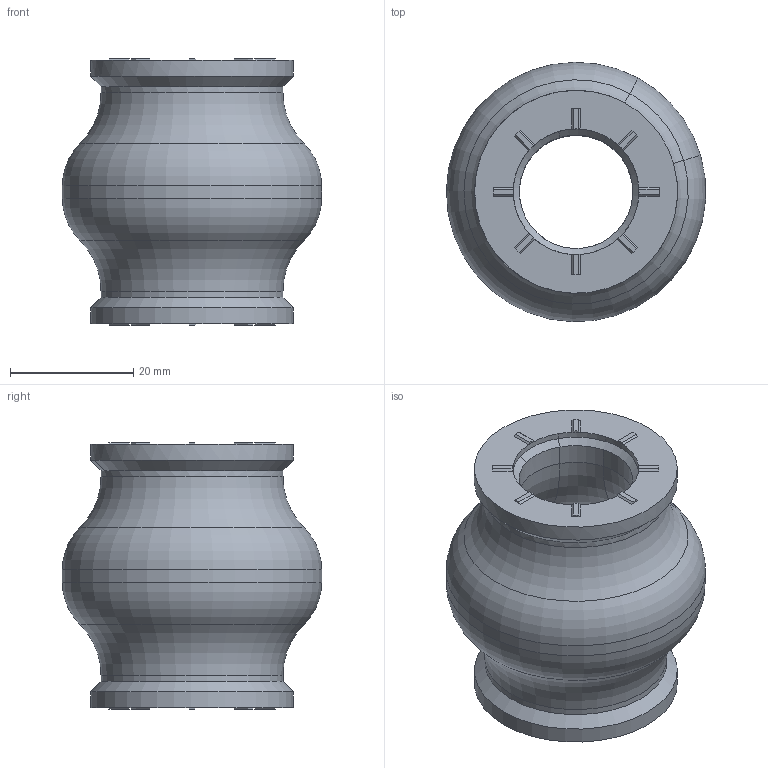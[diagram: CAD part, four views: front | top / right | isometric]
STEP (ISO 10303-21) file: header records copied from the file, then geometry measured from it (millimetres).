
FILE_DESCRIPTION(('STEP AP203'), '1');
FILE_NAME('???????????????__1', '2025-10-10T05:11:15', ('Kachestvo'), (''), 'C3D Converter', 'C3D Toolkit', '');
FILE_SCHEMA(('CONFIG_CONTROL_DESIGN'));
Length unit declared in the file: millimetre
Products named in the file (1): 009975-01-000
Bounding box: 42.14 x 42.17 x 43.4 mm (x, y, z)
Volume: 24138.5 mm3; surface area: 9666.3 mm2
Topology: 1 solids, 1 shells, 142 faces, 352 edges, 212 vertices
Faces by surface type: plane 82, cylinder 36, torus 16, cone 8
Entity records: 5425 total; most frequent: CARTESIAN_POINT 879, DIRECTION 750, ORIENTED_EDGE 704, EDGE_CURVE 352, AXIS2_PLACEMENT_3D 289, VERTEX_POINT 212, LINE 172, VECTOR 172
